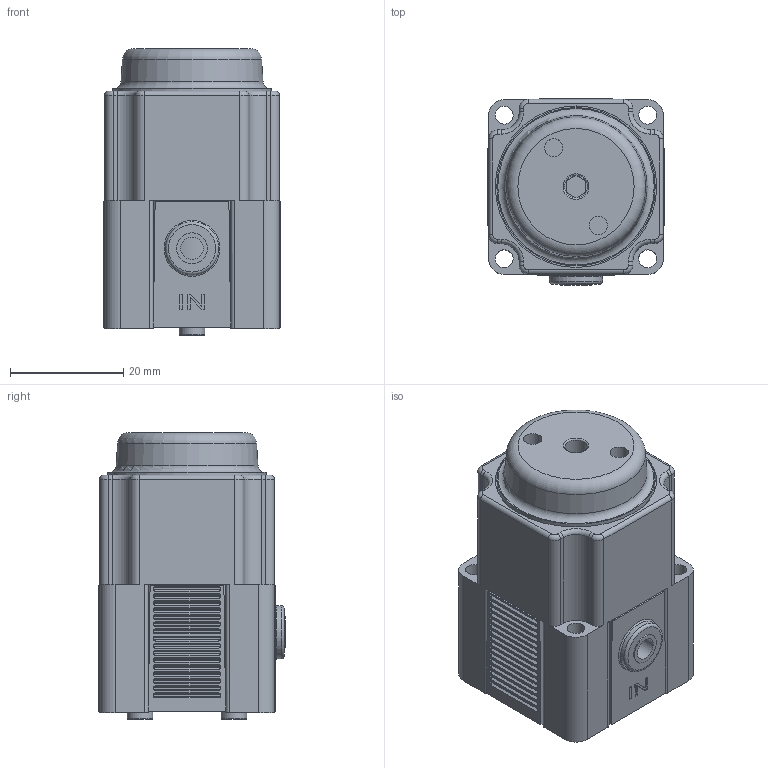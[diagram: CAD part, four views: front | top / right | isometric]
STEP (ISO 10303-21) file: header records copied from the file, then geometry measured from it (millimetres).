
FILE_DESCRIPTION(/* description */ (''),/* implementation_level */ '2;1');
FILE_NAME(/* name */ 'K:\Normteile INVENTOR\Air-Logic\Regulators\PR6000\PR 6___ 0 10-32 UNF Threads In.igs.ipt.stp',/* time_stamp */ '2020-05-27T10:52:11+02:00',/* author */ ('Paul'),/* organization */ (''),/* preprocessor_version */ 'ST-DEVELOPER v18',/* originating_system */ 'Autodesk Inventor 2020',/* authorisation */ '');
FILE_SCHEMA (('AUTOMOTIVE_DESIGN { 1 0 10303 214 3 1 1 }'));
Length unit declared in the file: inch
Products named in the file (1): PR 6___ 0 10-32 UNF Threads In.igs
Bounding box: 31.19 x 32.97 x 50.78 mm (x, y, z)
Volume: 38973.8 mm3; surface area: 12724.9 mm2
Topology: 1 solids, 1 shells, 659 faces, 1694 edges, 1114 vertices
Faces by surface type: plane 336, cylinder 269, torus 31, bspline 20, cone 3
Full cylindrical faces by diameter (mm): 1.194 x1, 2.032 x1, 3.124 x2, 3.175 x8, 3.226 x2, 3.962 x1, 4.013 x1, 4.521 x2, 5.486 x1, 6.248 x1, 8.382 x2, 9.169 x1, 9.398 x1, 9.652 x1, 12.903 x1, 25.781 x1, 28.047 x1, 28.575 x1
Entity records: 23611 total; most frequent: CARTESIAN_POINT 6348, DIRECTION 3646, ORIENTED_EDGE 3388, EDGE_CURVE 1694, AXIS2_PLACEMENT_3D 1443, VERTEX_POINT 1114, LINE 760, VECTOR 760
